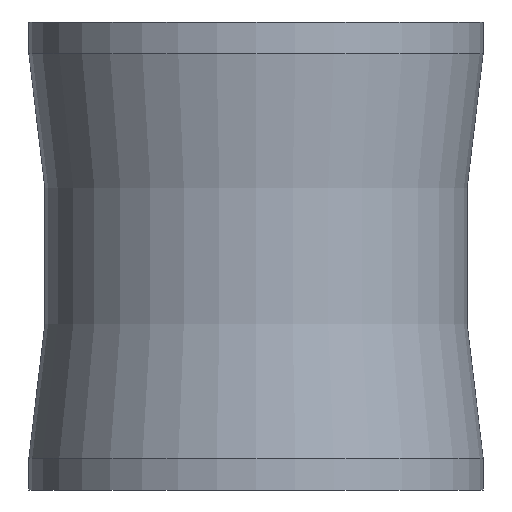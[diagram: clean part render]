
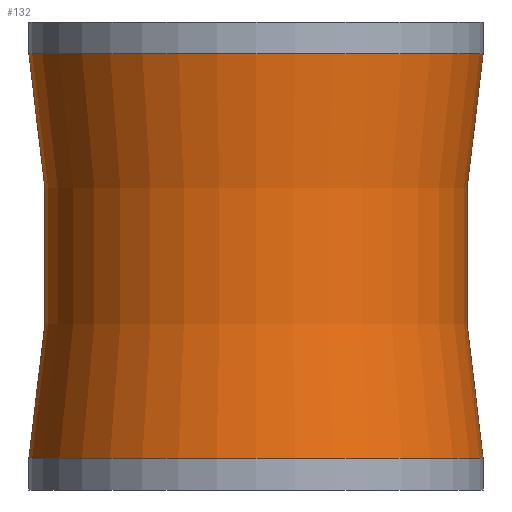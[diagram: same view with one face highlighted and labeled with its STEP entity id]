
A CAD part, front view. The second image highlights one B-rep face of the part: STEP entity #132.
In plain terms, the highlighted toroidal (fillet/blend) face has major radius 296.008 mm and minor radius 250 mm.
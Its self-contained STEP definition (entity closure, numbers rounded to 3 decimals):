
#98=TOROIDAL_SURFACE('',#261,296.008,250.);
#110=FACE_OUTER_BOUND('',#150,.T.);
#132=ADVANCED_FACE('',(#110),#98,.F.);
#150=EDGE_LOOP('',(#181,#182,#183,#184));
#181=ORIENTED_EDGE('',*,*,#219,.F.);
#182=ORIENTED_EDGE('',*,*,#218,.T.);
#183=ORIENTED_EDGE('',*,*,#221,.T.);
#184=ORIENTED_EDGE('',*,*,#222,.F.);
#201=VERTEX_POINT('',#344);
#202=VERTEX_POINT('',#346);
#203=VERTEX_POINT('',#352);
#204=VERTEX_POINT('',#354);
#218=EDGE_CURVE('',#201,#202,#234,.T.);
#219=EDGE_CURVE('',#201,#203,#235,.T.);
#221=EDGE_CURVE('',#202,#204,#237,.T.);
#222=EDGE_CURVE('',#203,#204,#238,.T.);
#234=CIRCLE('',#254,50.);
#235=CIRCLE('',#256,250.);
#237=CIRCLE('',#258,250.);
#238=CIRCLE('',#260,50.);
#254=AXIS2_PLACEMENT_3D('',#349,#298,#299);
#256=AXIS2_PLACEMENT_3D('',#351,#302,#303);
#258=AXIS2_PLACEMENT_3D('',#355,#306,#307);
#260=AXIS2_PLACEMENT_3D('',#357,#310,#311);
#261=AXIS2_PLACEMENT_3D('',#358,#312,#313);
#298=DIRECTION('',(0.,0.,1.));
#299=DIRECTION('',(0.,1.,0.));
#302=DIRECTION('',(0.,-1.,0.));
#303=DIRECTION('',(0.947,0.,0.322));
#306=DIRECTION('',(0.,1.,0.));
#307=DIRECTION('',(-0.947,0.,0.322));
#310=DIRECTION('',(0.,0.,1.));
#311=DIRECTION('',(0.,1.,0.));
#312=DIRECTION('',(0.,0.,1.));
#313=DIRECTION('',(1.,0.,0.));
#344=CARTESIAN_POINT('',(-50.,0.,7.));
#346=CARTESIAN_POINT('',(50.,0.,7.));
#349=CARTESIAN_POINT('',(0.,0.,7.));
#351=CARTESIAN_POINT('',(-296.008,0.,51.5));
#352=CARTESIAN_POINT('',(-50.,0.,96.));
#354=CARTESIAN_POINT('',(50.,0.,96.));
#355=CARTESIAN_POINT('',(296.008,0.,51.5));
#357=CARTESIAN_POINT('',(0.,0.,96.));
#358=CARTESIAN_POINT('',(0.,0.,51.5));
